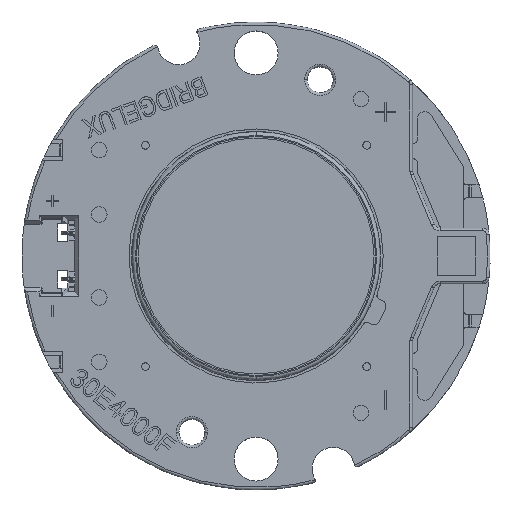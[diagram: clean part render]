
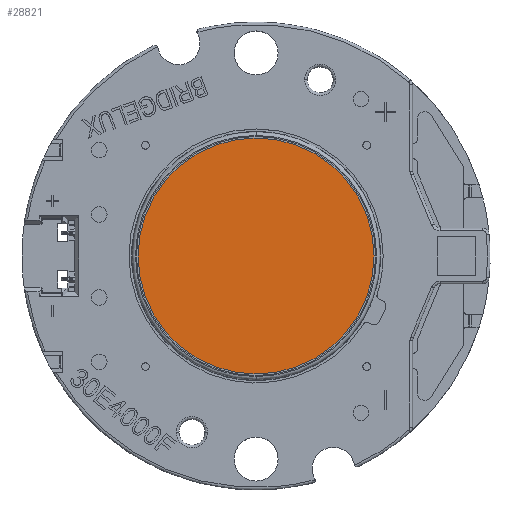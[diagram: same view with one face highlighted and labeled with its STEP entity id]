
A CAD part, top view. The second image highlights one B-rep face of the part: STEP entity #28821.
In plain terms, the highlighted planar face has unit normal (0, 0, 1).
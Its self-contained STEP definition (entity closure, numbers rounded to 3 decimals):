
#965 = AXIS2_PLACEMENT_3D ( 'NONE', #43962, #18889, #48146 ) ;
#1197 = DIRECTION ( 'NONE',  ( 0., 0., 1. ) ) ;
#1233 = AXIS2_PLACEMENT_3D ( 'NONE', #27343, #2234, #31529 ) ;
#2234 = DIRECTION ( 'NONE',  ( 0., 0., 1. ) ) ;
#2290 = EDGE_CURVE ( 'NONE', #21284, #46561, #33622, .T. ) ;
#3875 = CARTESIAN_POINT ( 'NONE',  ( -5.784, -8.604, 39.514 ) ) ;
#8489 = CARTESIAN_POINT ( 'NONE',  ( -5.784, 9.646, 39.514 ) ) ;
#9416 = FACE_OUTER_BOUND ( 'NONE', #24463, .T. ) ;
#13067 = CIRCLE ( 'NONE', #34545, 9.125 ) ;
#18889 = DIRECTION ( 'NONE',  ( 0., 0., 1. ) ) ;
#21284 = VERTEX_POINT ( 'NONE', #3875 ) ;
#24463 = EDGE_LOOP ( 'NONE', ( #45261, #45387 ) ) ;
#26276 = CARTESIAN_POINT ( 'NONE',  ( -5.784, 0.521, 39.514 ) ) ;
#27140 = PLANE ( 'NONE',  #1233 ) ;
#27343 = CARTESIAN_POINT ( 'NONE',  ( -5.784, 0.521, 39.514 ) ) ;
#28821 = ADVANCED_FACE ( 'NONE', ( #9416 ), #27140, .T. ) ;
#30499 = DIRECTION ( 'NONE',  ( 0., -1., 0. ) ) ;
#31529 = DIRECTION ( 'NONE',  ( 0., -1., 0. ) ) ;
#33342 = EDGE_CURVE ( 'NONE', #46561, #21284, #13067, .T. ) ;
#33622 = CIRCLE ( 'NONE', #965, 9.125 ) ;
#34545 = AXIS2_PLACEMENT_3D ( 'NONE', #26276, #1197, #30499 ) ;
#43962 = CARTESIAN_POINT ( 'NONE',  ( -5.784, 0.521, 39.514 ) ) ;
#45261 = ORIENTED_EDGE ( 'NONE', *, *, #33342, .T. ) ;
#45387 = ORIENTED_EDGE ( 'NONE', *, *, #2290, .T. ) ;
#46561 = VERTEX_POINT ( 'NONE', #8489 ) ;
#48146 = DIRECTION ( 'NONE',  ( 0., -1., 0. ) ) ;
